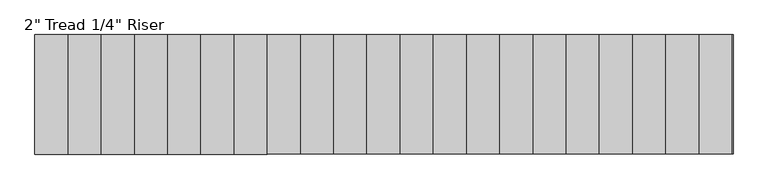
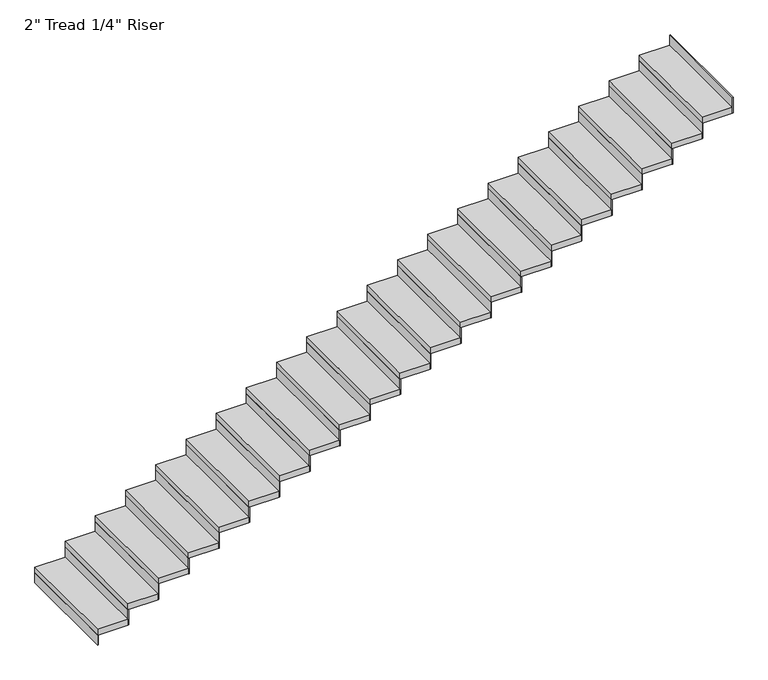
"""IFC4 building model written with IfcOpenShell, lengths in millimetres: stair flight geometry."""

from ifc_helpers import new_model, si_unit, frame, origin, origin_with_axes, place, context, project, spatial, polyline, outline, extrude, source, transform, mapped, element, save


def stair_flight_97da3e8a(model_context):
    return source(origin(), model_context, "Body", "SweptSolid", [
        extrude(outline(polyline([(-12451.1156525, 34034.002192), (-12457.4656525, 34034.002192), (-12457.4656525, 34948.402192), (-12451.1156525, 34948.402192), (-12451.1156525, 34034.002192)])), origin_with_axes(), (0.0, 0.0, 1.0), 87.7454545),
        extrude(outline(polyline([(-12203.4656525, 34948.402192), (-12203.4656525, 34034.002192), (-12457.4656525, 34034.002192), (-12457.4656525, 34948.402192), (-12203.4656525, 34948.402192)])), frame((0.0, 0.0, 87.7454545), z_axis=(0.0, 0.0, 1.0), x_axis=(1.0, 0.0, 0.0)), (0.0, 0.0, 1.0), 50.8),
        extrude(outline(polyline([(-12197.1156525, 34034.002192), (-12203.4656525, 34034.002192), (-12203.4656525, 34948.402192), (-12197.1156525, 34948.402192), (-12197.1156525, 34034.002192)])), frame((0.0, 0.0, 87.7454545), z_axis=(0.0, 0.0, 1.0), x_axis=(1.0, 0.0, 0.0)), (0.0, 0.0, 1.0), 138.5454545),
        extrude(outline(polyline([(-11949.4656525, 34948.402192), (-11949.4656525, 34034.002192), (-12203.4656525, 34034.002192), (-12203.4656525, 34948.402192), (-11949.4656525, 34948.402192)])), frame((0.0, 0.0, 226.2909091), z_axis=(0.0, 0.0, 1.0), x_axis=(1.0, 0.0, 0.0)), (0.0, 0.0, 1.0), 50.8),
        extrude(outline(polyline([(-11943.1156525, 34034.002192), (-11949.4656525, 34034.002192), (-11949.4656525, 34948.402192), (-11943.1156525, 34948.402192), (-11943.1156525, 34034.002192)])), frame((0.0, 0.0, 226.2909091), z_axis=(0.0, 0.0, 1.0), x_axis=(1.0, 0.0, 0.0)), (0.0, 0.0, 1.0), 138.5454545),
        extrude(outline(polyline([(-11695.4656525, 34948.402192), (-11695.4656525, 34034.002192), (-11949.4656525, 34034.002192), (-11949.4656525, 34948.402192), (-11695.4656525, 34948.402192)])), frame((0.0, 0.0, 364.8363636), z_axis=(0.0, 0.0, 1.0), x_axis=(1.0, 0.0, 0.0)), (0.0, 0.0, 1.0), 50.8),
        extrude(outline(polyline([(-11689.1156525, 34034.002192), (-11695.4656525, 34034.002192), (-11695.4656525, 34948.402192), (-11689.1156525, 34948.402192), (-11689.1156525, 34034.002192)])), frame((0.0, 0.0, 364.8363636), z_axis=(0.0, 0.0, 1.0), x_axis=(1.0, 0.0, 0.0)), (0.0, 0.0, 1.0), 138.5454545),
        extrude(outline(polyline([(-11441.4656525, 34948.402192), (-11441.4656525, 34034.002192), (-11695.4656525, 34034.002192), (-11695.4656525, 34948.402192), (-11441.4656525, 34948.402192)])), frame((0.0, 0.0, 503.3818182), z_axis=(0.0, 0.0, 1.0), x_axis=(1.0, 0.0, 0.0)), (0.0, 0.0, 1.0), 50.8),
        extrude(outline(polyline([(-11435.1156525, 34034.002192), (-11441.4656525, 34034.002192), (-11441.4656525, 34948.402192), (-11435.1156525, 34948.402192), (-11435.1156525, 34034.002192)])), frame((0.0, 0.0, 503.3818182), z_axis=(0.0, 0.0, 1.0), x_axis=(1.0, 0.0, 0.0)), (0.0, 0.0, 1.0), 138.5454545),
        extrude(outline(polyline([(-11187.4656525, 34948.402192), (-11187.4656525, 34034.002192), (-11441.4656525, 34034.002192), (-11441.4656525, 34948.402192), (-11187.4656525, 34948.402192)])), frame((0.0, 0.0, 641.9272727), z_axis=(0.0, 0.0, 1.0), x_axis=(1.0, 0.0, 0.0)), (0.0, 0.0, 1.0), 50.8),
        extrude(outline(polyline([(-11181.1156525, 34034.002192), (-11187.4656525, 34034.002192), (-11187.4656525, 34948.402192), (-11181.1156525, 34948.402192), (-11181.1156525, 34034.002192)])), frame((0.0, 0.0, 641.9272727), z_axis=(0.0, 0.0, 1.0), x_axis=(1.0, 0.0, 0.0)), (0.0, 0.0, 1.0), 138.5454545),
        extrude(outline(polyline([(-10933.4656525, 34948.402192), (-10933.4656525, 34034.002192), (-11187.4656525, 34034.002192), (-11187.4656525, 34948.402192), (-10933.4656525, 34948.402192)])), frame((0.0, 0.0, 780.4727273), z_axis=(0.0, 0.0, 1.0), x_axis=(1.0, 0.0, 0.0)), (0.0, 0.0, 1.0), 50.8),
        extrude(outline(polyline([(-10927.1156525, 34034.002192), (-10933.4656525, 34034.002192), (-10933.4656525, 34948.402192), (-10927.1156525, 34948.402192), (-10927.1156525, 34034.002192)])), frame((0.0, 0.0, 780.4727273), z_axis=(0.0, 0.0, 1.0), x_axis=(1.0, 0.0, 0.0)), (0.0, 0.0, 1.0), 138.5454545),
        extrude(outline(polyline([(-10679.4656525, 34948.402192), (-10679.4656525, 34034.002192), (-10933.4656525, 34034.002192), (-10933.4656525, 34948.402192), (-10679.4656525, 34948.402192)])), frame((0.0, 0.0, 919.0181818), z_axis=(0.0, 0.0, 1.0), x_axis=(1.0, 0.0, 0.0)), (0.0, 0.0, 1.0), 50.8),
        extrude(outline(polyline([(-10673.1156525, 34034.002192), (-10679.4656525, 34034.002192), (-10679.4656525, 34948.402192), (-10673.1156525, 34948.402192), (-10673.1156525, 34034.002192)])), frame((0.0, 0.0, 919.0181818), z_axis=(0.0, 0.0, 1.0), x_axis=(1.0, 0.0, 0.0)), (0.0, 0.0, 1.0), 138.5454545),
        extrude(outline(polyline([(-10425.4656525, 34948.402192), (-10425.4656525, 34034.002192), (-10679.4656525, 34034.002192), (-10679.4656525, 34948.402192), (-10425.4656525, 34948.402192)])), frame((0.0, 0.0, 1057.5636364), z_axis=(0.0, 0.0, 1.0), x_axis=(1.0, 0.0, 0.0)), (0.0, 0.0, 1.0), 50.8),
        extrude(outline(polyline([(-10419.1156525, 34034.002192), (-10425.4656525, 34034.002192), (-10425.4656525, 34948.402192), (-10419.1156525, 34948.402192), (-10419.1156525, 34034.002192)])), frame((0.0, 0.0, 1057.5636364), z_axis=(0.0, 0.0, 1.0), x_axis=(1.0, 0.0, 0.0)), (0.0, 0.0, 1.0), 138.5454545),
        extrude(outline(polyline([(-10171.4656525, 34948.402192), (-10171.4656525, 34034.002192), (-10425.4656525, 34034.002192), (-10425.4656525, 34948.402192), (-10171.4656525, 34948.402192)])), frame((0.0, 0.0, 1196.1090909), z_axis=(0.0, 0.0, 1.0), x_axis=(1.0, 0.0, 0.0)), (0.0, 0.0, 1.0), 50.8),
        extrude(outline(polyline([(-10165.1156525, 34034.002192), (-10171.4656525, 34034.002192), (-10171.4656525, 34948.402192), (-10165.1156525, 34948.402192), (-10165.1156525, 34034.002192)])), frame((0.0, 0.0, 1196.1090909), z_axis=(0.0, 0.0, 1.0), x_axis=(1.0, 0.0, 0.0)), (0.0, 0.0, 1.0), 138.5454545),
        extrude(outline(polyline([(-9917.4656525, 34948.402192), (-9917.4656525, 34034.002192), (-10171.4656525, 34034.002192), (-10171.4656525, 34948.402192), (-9917.4656525, 34948.402192)])), frame((0.0, 0.0, 1334.6545455), z_axis=(0.0, 0.0, 1.0), x_axis=(1.0, 0.0, 0.0)), (0.0, 0.0, 1.0), 50.8),
        extrude(outline(polyline([(-9911.1156525, 34034.002192), (-9917.4656525, 34034.002192), (-9917.4656525, 34948.402192), (-9911.1156525, 34948.402192), (-9911.1156525, 34034.002192)])), frame((0.0, 0.0, 1334.6545455), z_axis=(0.0, 0.0, 1.0), x_axis=(1.0, 0.0, 0.0)), (0.0, 0.0, 1.0), 138.5454545),
        extrude(outline(polyline([(-9663.4656525, 34948.402192), (-9663.4656525, 34034.002192), (-9917.4656525, 34034.002192), (-9917.4656525, 34948.402192), (-9663.4656525, 34948.402192)])), frame((0.0, 0.0, 1473.2), z_axis=(0.0, 0.0, 1.0), x_axis=(1.0, 0.0, 0.0)), (0.0, 0.0, 1.0), 50.8),
        extrude(outline(polyline([(-9657.1156525, 34034.002192), (-9663.4656525, 34034.002192), (-9663.4656525, 34948.402192), (-9657.1156525, 34948.402192), (-9657.1156525, 34034.002192)])), frame((0.0, 0.0, 1473.2), z_axis=(0.0, 0.0, 1.0), x_axis=(1.0, 0.0, 0.0)), (0.0, 0.0, 1.0), 138.5454545),
        extrude(outline(polyline([(-9409.4656525, 34948.402192), (-9409.4656525, 34034.002192), (-9663.4656525, 34034.002192), (-9663.4656525, 34948.402192), (-9409.4656525, 34948.402192)])), frame((0.0, 0.0, 1611.7454545), z_axis=(0.0, 0.0, 1.0), x_axis=(1.0, 0.0, 0.0)), (0.0, 0.0, 1.0), 50.8),
        extrude(outline(polyline([(-9403.1156525, 34034.002192), (-9409.4656525, 34034.002192), (-9409.4656525, 34948.402192), (-9403.1156525, 34948.402192), (-9403.1156525, 34034.002192)])), frame((0.0, 0.0, 1611.7454545), z_axis=(0.0, 0.0, 1.0), x_axis=(1.0, 0.0, 0.0)), (0.0, 0.0, 1.0), 138.5454545),
        extrude(outline(polyline([(-9155.4656525, 34948.402192), (-9155.4656525, 34034.002192), (-9409.4656525, 34034.002192), (-9409.4656525, 34948.402192), (-9155.4656525, 34948.402192)])), frame((0.0, 0.0, 1750.2909091), z_axis=(0.0, 0.0, 1.0), x_axis=(1.0, 0.0, 0.0)), (0.0, 0.0, 1.0), 50.8),
        extrude(outline(polyline([(-9149.1156525, 34034.002192), (-9155.4656525, 34034.002192), (-9155.4656525, 34948.402192), (-9149.1156525, 34948.402192), (-9149.1156525, 34034.002192)])), frame((0.0, 0.0, 1750.2909091), z_axis=(0.0, 0.0, 1.0), x_axis=(1.0, 0.0, 0.0)), (0.0, 0.0, 1.0), 138.5454545),
        extrude(outline(polyline([(-8901.4656525, 34948.402192), (-8901.4656525, 34034.002192), (-9155.4656525, 34034.002192), (-9155.4656525, 34948.402192), (-8901.4656525, 34948.402192)])), frame((0.0, 0.0, 1888.8363636), z_axis=(0.0, 0.0, 1.0), x_axis=(1.0, 0.0, 0.0)), (0.0, 0.0, 1.0), 50.8),
        extrude(outline(polyline([(-8895.1156525, 34034.002192), (-8901.4656525, 34034.002192), (-8901.4656525, 34948.402192), (-8895.1156525, 34948.402192), (-8895.1156525, 34034.002192)])), frame((0.0, 0.0, 1888.8363636), z_axis=(0.0, 0.0, 1.0), x_axis=(1.0, 0.0, 0.0)), (0.0, 0.0, 1.0), 138.5454545),
        extrude(outline(polyline([(-8647.4656525, 34948.402192), (-8647.4656525, 34034.002192), (-8901.4656525, 34034.002192), (-8901.4656525, 34948.402192), (-8647.4656525, 34948.402192)])), frame((0.0, 0.0, 2027.3818182), z_axis=(0.0, 0.0, 1.0), x_axis=(1.0, 0.0, 0.0)), (0.0, 0.0, 1.0), 50.8),
        extrude(outline(polyline([(-8641.1156525, 34034.002192), (-8647.4656525, 34034.002192), (-8647.4656525, 34948.402192), (-8641.1156525, 34948.402192), (-8641.1156525, 34034.002192)])), frame((0.0, 0.0, 2027.3818182), z_axis=(0.0, 0.0, 1.0), x_axis=(1.0, 0.0, 0.0)), (0.0, 0.0, 1.0), 138.5454545),
        extrude(outline(polyline([(-8393.4656525, 34948.402192), (-8393.4656525, 34034.002192), (-8647.4656525, 34034.002192), (-8647.4656525, 34948.402192), (-8393.4656525, 34948.402192)])), frame((0.0, 0.0, 2165.9272727), z_axis=(0.0, 0.0, 1.0), x_axis=(1.0, 0.0, 0.0)), (0.0, 0.0, 1.0), 50.8),
        extrude(outline(polyline([(-8387.1156525, 34034.002192), (-8393.4656525, 34034.002192), (-8393.4656525, 34948.402192), (-8387.1156525, 34948.402192), (-8387.1156525, 34034.002192)])), frame((0.0, 0.0, 2165.9272727), z_axis=(0.0, 0.0, 1.0), x_axis=(1.0, 0.0, 0.0)), (0.0, 0.0, 1.0), 138.5454545),
        extrude(outline(polyline([(-8139.4656525, 34948.402192), (-8139.4656525, 34034.002192), (-8393.4656525, 34034.002192), (-8393.4656525, 34948.402192), (-8139.4656525, 34948.402192)])), frame((0.0, 0.0, 2304.4727273), z_axis=(0.0, 0.0, 1.0), x_axis=(1.0, 0.0, 0.0)), (0.0, 0.0, 1.0), 50.8),
        extrude(outline(polyline([(-8133.1156525, 34034.002192), (-8139.4656525, 34034.002192), (-8139.4656525, 34948.402192), (-8133.1156525, 34948.402192), (-8133.1156525, 34034.002192)])), frame((0.0, 0.0, 2304.4727273), z_axis=(0.0, 0.0, 1.0), x_axis=(1.0, 0.0, 0.0)), (0.0, 0.0, 1.0), 138.5454545),
        extrude(outline(polyline([(-7885.4656525, 34948.402192), (-7885.4656525, 34034.002192), (-8139.4656525, 34034.002192), (-8139.4656525, 34948.402192), (-7885.4656525, 34948.402192)])), frame((0.0, 0.0, 2443.0181818), z_axis=(0.0, 0.0, 1.0), x_axis=(1.0, 0.0, 0.0)), (0.0, 0.0, 1.0), 50.8),
        extrude(outline(polyline([(-7879.1156525, 34034.002192), (-7885.4656525, 34034.002192), (-7885.4656525, 34948.402192), (-7879.1156525, 34948.402192), (-7879.1156525, 34034.002192)])), frame((0.0, 0.0, 2443.0181818), z_axis=(0.0, 0.0, 1.0), x_axis=(1.0, 0.0, 0.0)), (0.0, 0.0, 1.0), 138.5454545),
        extrude(outline(polyline([(-7631.4656525, 34948.402192), (-7631.4656525, 34034.002192), (-7885.4656525, 34034.002192), (-7885.4656525, 34948.402192), (-7631.4656525, 34948.402192)])), frame((0.0, 0.0, 2581.5636364), z_axis=(0.0, 0.0, 1.0), x_axis=(1.0, 0.0, 0.0)), (0.0, 0.0, 1.0), 50.8),
        extrude(outline(polyline([(-7625.1156525, 34034.002192), (-7631.4656525, 34034.002192), (-7631.4656525, 34948.402192), (-7625.1156525, 34948.402192), (-7625.1156525, 34034.002192)])), frame((0.0, 0.0, 2581.5636364), z_axis=(0.0, 0.0, 1.0), x_axis=(1.0, 0.0, 0.0)), (0.0, 0.0, 1.0), 138.5454545),
        extrude(outline(polyline([(-7377.4656525, 34948.402192), (-7377.4656525, 34034.002192), (-7631.4656525, 34034.002192), (-7631.4656525, 34948.402192), (-7377.4656525, 34948.402192)])), frame((0.0, 0.0, 2720.1090909), z_axis=(0.0, 0.0, 1.0), x_axis=(1.0, 0.0, 0.0)), (0.0, 0.0, 1.0), 50.8),
        extrude(outline(polyline([(-7371.1156525, 34034.002192), (-7377.4656525, 34034.002192), (-7377.4656525, 34948.402192), (-7371.1156525, 34948.402192), (-7371.1156525, 34034.002192)])), frame((0.0, 0.0, 2720.1090909), z_axis=(0.0, 0.0, 1.0), x_axis=(1.0, 0.0, 0.0)), (0.0, 0.0, 1.0), 138.5454545),
        extrude(outline(polyline([(-7117.1156525, 34034.002192), (-7123.4656525, 34034.002192), (-7123.4656525, 34948.402192), (-7117.1156525, 34948.402192), (-7117.1156525, 34034.002192)])), frame((0.0, 0.0, 2858.6545455), z_axis=(0.0, 0.0, 1.0), x_axis=(1.0, 0.0, 0.0)), (0.0, 0.0, 1.0), 138.5454545),
        extrude(outline(polyline([(-7123.4656525, 34948.402192), (-7123.4656525, 34034.002192), (-7377.4656525, 34034.002192), (-7377.4656525, 34948.402192), (-7123.4656525, 34948.402192)])), frame((0.0, 0.0, 2858.6545455), z_axis=(0.0, 0.0, 1.0), x_axis=(1.0, 0.0, 0.0)), (0.0, 0.0, 1.0), 50.8),
    ])


if __name__ == "__main__":
    model = new_model("IFC4")
    model_context = context("Model", 3, world=origin())
    ifc_project = project(units=[si_unit("LENGTHUNIT", "METRE", prefix="MILLI")], contexts=[model_context])
    site = spatial("IfcSite", under=ifc_project)
    building = spatial("IfcBuilding", under=site)
    placement = place(None, origin())
    stair_flight_shape = stair_flight_97da3e8a(model_context)
    element("IfcStairFlight", 1, ObjectType="2\" Tread 1/4\" Riser", at=placement, inside=building, context=model_context, shape_type="MappedRepresentation", body=[
        mapped(stair_flight_shape, transform((0.0, 0.0, 0.0), x_axis=(1.0, 0.0, 0.0), y_axis=(0.0, 1.0, 0.0), z_axis=(0.0, 0.0, 1.0))),
    ])
    save(model, "model.ifc")
